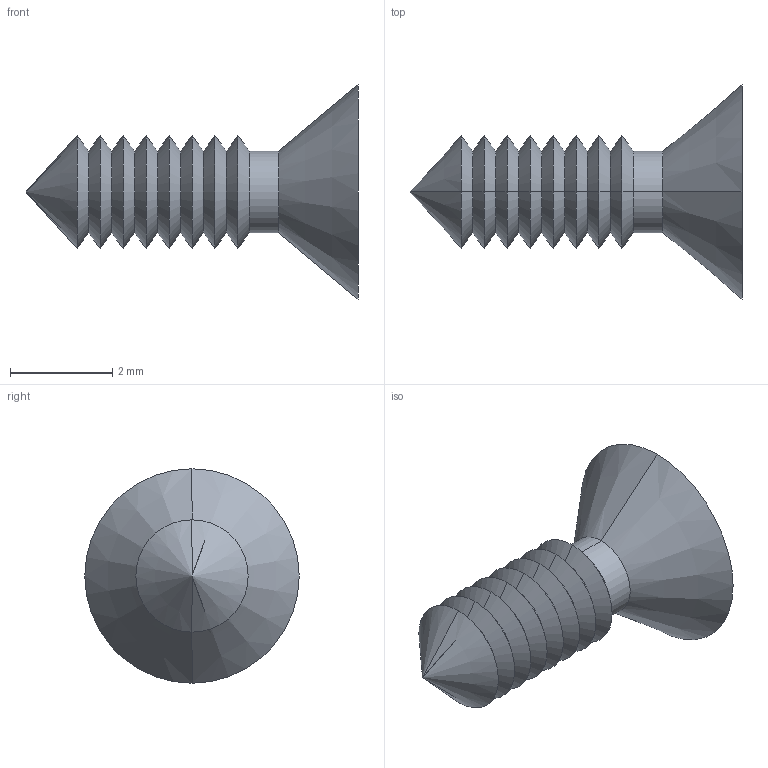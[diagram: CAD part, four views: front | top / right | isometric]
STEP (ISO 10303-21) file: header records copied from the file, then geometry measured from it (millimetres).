
FILE_DESCRIPTION (( 'STEP AP214' ), '1' );
FILE_NAME ('Cargol 2,1x6,5 PP25.STEP', '2019-10-23T12:51:28', ( 'aaa' ), ( '' ), 'SwSTEP 2.0', 'SolidWorks 2014', '' );
FILE_SCHEMA (( 'AUTOMOTIVE_DESIGN' ));
Length unit declared in the file: millimetre
Products named in the file (1): Cargol 2,1x6,5 PP25
Bounding box: 6.5 x 4.2 x 4.2 mm (x, y, z)
Volume: 22.5 mm3; surface area: 76.4 mm2
Topology: 1 solids, 1 shells, 50 faces, 110 edges, 61 vertices
Faces by surface type: cone 34, plane 14, cylinder 2
Entity records: 1358 total; most frequent: DIRECTION 246, CARTESIAN_POINT 220, ORIENTED_EDGE 216, EDGE_CURVE 108, AXIS2_PLACEMENT_3D 87, LINE 72, VECTOR 72, VERTEX_POINT 61
